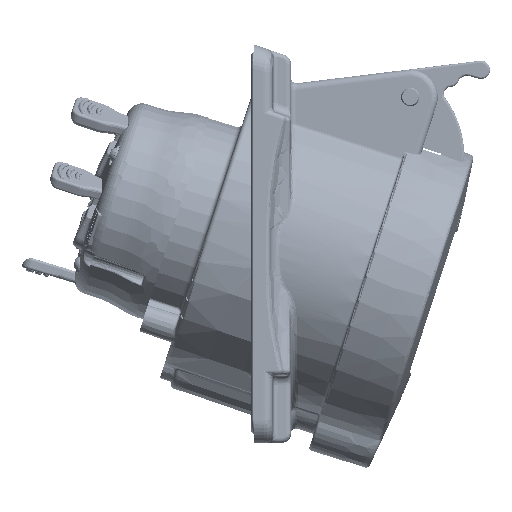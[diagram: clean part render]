
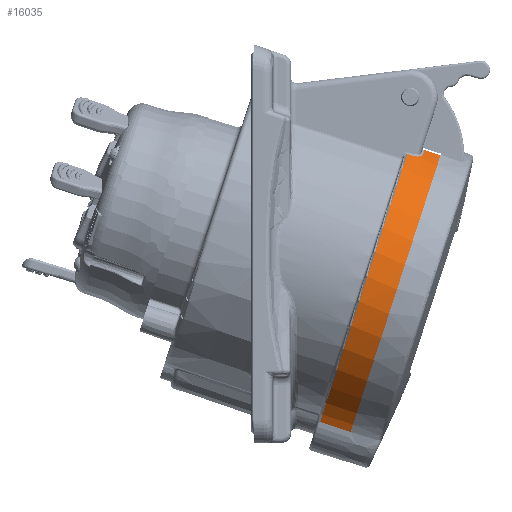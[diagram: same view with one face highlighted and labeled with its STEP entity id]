
A CAD part, left-side view. The second image highlights one B-rep face of the part: STEP entity #16035.
In plain terms, the highlighted cylindrical face has radius 33.25 mm (diameter 66.5 mm), a partial arc.
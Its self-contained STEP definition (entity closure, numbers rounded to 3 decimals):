
#1809=ELLIPSE('',#98430,3810.218,33.25);
#6637=B_SPLINE_CURVE_WITH_KNOTS('',3,(#217539,#217540,#217541,#217542,#217543,
#217544,#217545,#217546,#217547,#217548,#217549,#217550,#217551,#217552,
#217553,#217554),.UNSPECIFIED.,.F.,.F.,(4,3,3,3,3,4),(0.,0.225,
0.499,0.701,0.906,1.),.UNSPECIFIED.);
#16035=ADVANCED_FACE('',(#22874),#19344,.T.);
#19344=CYLINDRICAL_SURFACE('',#98431,33.25);
#22874=FACE_OUTER_BOUND('',#28456,.T.);
#28456=EDGE_LOOP('',(#48525,#48526,#48527,#48528,#48529,#48530,#48531));
#32769=CIRCLE('',#98274,33.25);
#32786=CIRCLE('',#98404,33.25);
#32790=CIRCLE('',#98429,33.25);
#48525=ORIENTED_EDGE('',*,*,#77269,.F.);
#48526=ORIENTED_EDGE('',*,*,#77097,.T.);
#48527=ORIENTED_EDGE('',*,*,#77095,.F.);
#48528=ORIENTED_EDGE('',*,*,#77094,.T.);
#48529=ORIENTED_EDGE('',*,*,#77298,.F.);
#48530=ORIENTED_EDGE('',*,*,#77299,.F.);
#48531=ORIENTED_EDGE('',*,*,#77300,.F.);
#65817=VERTEX_POINT('',#215277);
#65948=VERTEX_POINT('',#217512);
#65949=VERTEX_POINT('',#217536);
#65950=VERTEX_POINT('',#217555);
#66042=VERTEX_POINT('',#218191);
#66057=VERTEX_POINT('',#218271);
#66058=VERTEX_POINT('',#218275);
#77094=EDGE_CURVE('',#65817,#65948,#32769,.T.);
#77095=EDGE_CURVE('',#65817,#65949,#86364,.T.);
#77097=EDGE_CURVE('',#65950,#65949,#6637,.T.);
#77269=EDGE_CURVE('',#65950,#66042,#32786,.T.);
#77298=EDGE_CURVE('',#66057,#65948,#86479,.T.);
#77299=EDGE_CURVE('',#66058,#66057,#32790,.T.);
#77300=EDGE_CURVE('',#66042,#66058,#1809,.T.);
#86364=LINE('',#217535,#91834);
#86479=LINE('',#218272,#91953);
#91834=VECTOR('',#111872,1.);
#91953=VECTOR('',#112295,1.);
#98274=AXIS2_PLACEMENT_3D('',#217533,#111868,#111869);
#98404=AXIS2_PLACEMENT_3D('',#218190,#112233,#112234);
#98429=AXIS2_PLACEMENT_3D('',#218274,#112298,#112299);
#98430=AXIS2_PLACEMENT_3D('',#218276,#112300,#112301);
#98431=AXIS2_PLACEMENT_3D('',#218277,#112302,#112303);
#111868=DIRECTION('',(0.,-0.951,-0.309));
#111869=DIRECTION('',(0.,0.309,-0.951));
#111872=DIRECTION('',(0.,-0.951,-0.309));
#112233=DIRECTION('',(0.,0.951,0.309));
#112234=DIRECTION('',(0.,0.309,-0.951));
#112295=DIRECTION('',(0.,0.951,0.309));
#112298=DIRECTION('',(0.,-0.951,-0.309));
#112299=DIRECTION('',(0.216,0.302,-0.929));
#112300=DIRECTION('',(1.,-0.008,-0.003));
#112301=DIRECTION('',(0.009,0.951,0.309));
#112302=DIRECTION('',(0.,-0.951,-0.309));
#112303=DIRECTION('',(-0.216,-0.302,0.929));
#215277=CARTESIAN_POINT('',(-16.256,100.718,62.816));
#217512=CARTESIAN_POINT('',(-7.17,119.715,4.351));
#217533=CARTESIAN_POINT('',(-0.001,109.682,35.23));
#217535=CARTESIAN_POINT('',(-16.256,100.718,62.816));
#217536=CARTESIAN_POINT('',(-16.256,99.482,62.414));
#217539=CARTESIAN_POINT('',(-14.286,97.265,62.765));
#217540=CARTESIAN_POINT('',(-14.509,97.298,62.664));
#217541=CARTESIAN_POINT('',(-14.734,97.369,62.572));
#217542=CARTESIAN_POINT('',(-14.944,97.474,62.494));
#217543=CARTESIAN_POINT('',(-15.199,97.6,62.401));
#217544=CARTESIAN_POINT('',(-15.441,97.781,62.327));
#217545=CARTESIAN_POINT('',(-15.642,97.999,62.285));
#217546=CARTESIAN_POINT('',(-15.792,98.161,62.253));
#217547=CARTESIAN_POINT('',(-15.923,98.347,62.239));
#217548=CARTESIAN_POINT('',(-16.024,98.546,62.245));
#217549=CARTESIAN_POINT('',(-16.125,98.746,62.252));
#217550=CARTESIAN_POINT('',(-16.198,98.965,62.28));
#217551=CARTESIAN_POINT('',(-16.232,99.181,62.33));
#217552=CARTESIAN_POINT('',(-16.248,99.281,62.353));
#217553=CARTESIAN_POINT('',(-16.256,99.383,62.381));
#217554=CARTESIAN_POINT('',(-16.256,99.482,62.414));
#217555=CARTESIAN_POINT('',(-14.286,97.265,62.765));
#218190=CARTESIAN_POINT('',(-0.001,106.543,34.21));
#218191=CARTESIAN_POINT('',(-12.158,96.98,63.643));
#218271=CARTESIAN_POINT('',(-7.17,113.057,2.188));
#218272=CARTESIAN_POINT('',(-7.17,113.057,2.188));
#218274=CARTESIAN_POINT('',(-0.001,103.024,33.067));
#218275=CARTESIAN_POINT('',(-12.19,93.465,62.488));
#218276=CARTESIAN_POINT('',(-0.001,1431.442,464.696));
#218277=CARTESIAN_POINT('',(-0.001,103.024,33.067));
